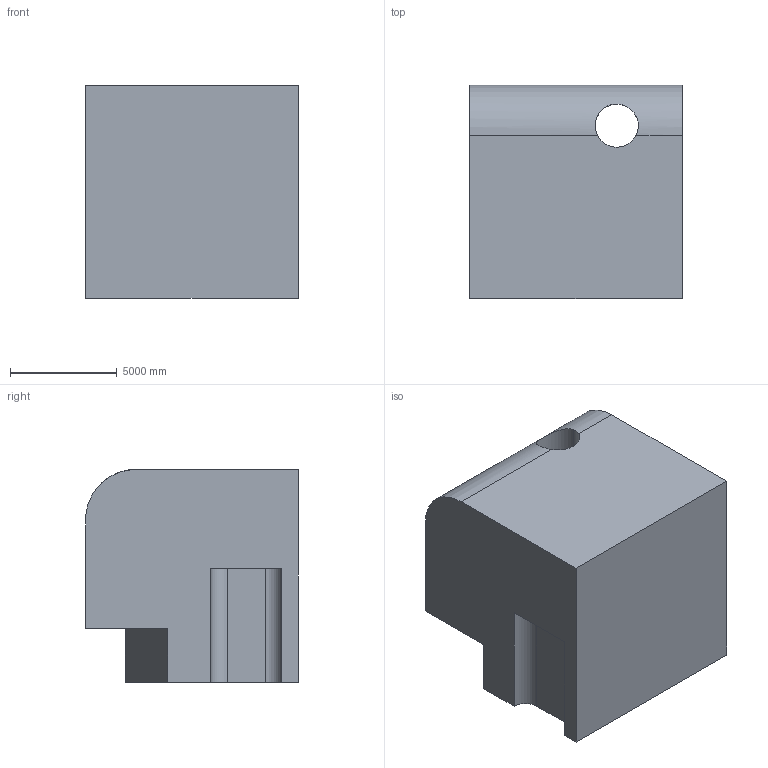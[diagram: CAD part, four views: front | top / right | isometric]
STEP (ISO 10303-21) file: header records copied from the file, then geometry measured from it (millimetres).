
FILE_DESCRIPTION (( 'STEP AP203' ), '1' );
FILE_NAME ('346.STEP', '2022-07-28T14:25:43', ( 'user' ), ( '' ), 'SwSTEP 2.0', 'SolidWorks 2021', '' );
FILE_SCHEMA (( 'CONFIG_CONTROL_DESIGN' ));
Length unit declared in the file: centimetre
Products named in the file (1): 346
Bounding box: 10000 x 10000 x 10000 mm (x, y, z)
Volume: 878310710652.5 mm3; surface area: 614730862.2 mm2
Topology: 1 solids, 1 shells, 17 faces, 51 edges, 34 vertices
Faces by surface type: plane 12, cylinder 5
Entity records: 834 total; most frequent: CARTESIAN_POINT 286, ORIENTED_EDGE 102, DIRECTION 95, EDGE_CURVE 51, VECTOR 37, LINE 37, VERTEX_POINT 34, AXIS2_PLACEMENT_3D 29
